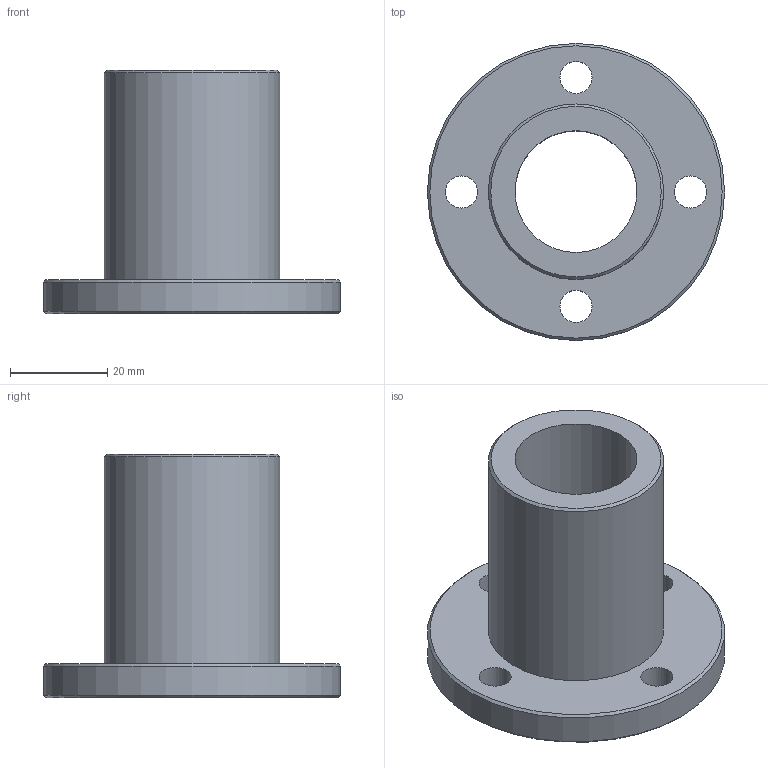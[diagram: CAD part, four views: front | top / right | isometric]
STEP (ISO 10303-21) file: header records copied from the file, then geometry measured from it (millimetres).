
FILE_DESCRIPTION(('STEP AP203'),'1');
FILE_NAME('//192.168.1.1/share/s-4 技術開発/s-4-4_CAD/s-4-4-3_見直し済み/018 修正済み/TMFON/TMFON_TOP/TMFON-25R.step','2022-02-08T05:36:06',(' '),(' '),'Spatial InterOp 3D',' ',' ');
FILE_SCHEMA(('CONFIG_CONTROL_DESIGN'));
Length unit declared in the file: millimetre
Products named in the file (1): 1
Bounding box: 61 x 61 x 50 mm (x, y, z)
Volume: 38662.7 mm3; surface area: 15155.3 mm2
Topology: 1 solids, 1 shells, 13 faces, 27 edges, 17 vertices
Faces by surface type: cylinder 7, plane 3, cone 3
Full cylindrical faces by diameter (mm): 6.6 x4, 25 x1, 36 x1, 61 x1
Entity records: 368 total; most frequent: DIRECTION 62, CARTESIAN_POINT 48, EDGE_LOOP 34, ORIENTED_EDGE 34, AXIS2_PLACEMENT_3D 31, FACE_OUTER_BOUND 20, EDGE_CURVE 17, VERTEX_POINT 17
